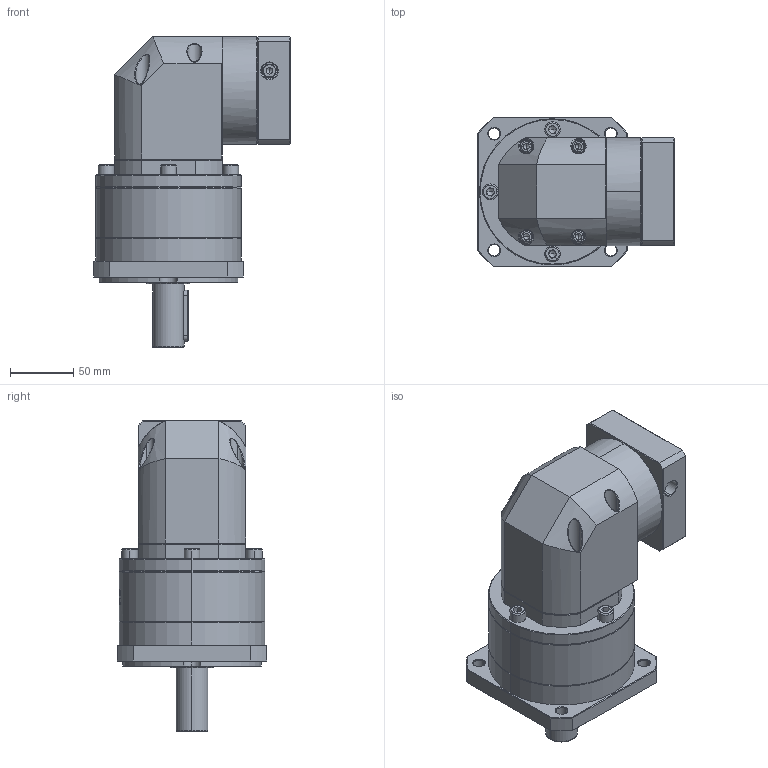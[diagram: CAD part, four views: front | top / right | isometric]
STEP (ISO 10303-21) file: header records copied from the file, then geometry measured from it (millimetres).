
FILE_DESCRIPTION (( 'STEP AP214' ), '1' );
FILE_NAME ('ZFR120A-D25-L2-P2-19-80-100-M6.step', '2023-08-27T09:16:33', ( '' ), ( '' ), 'SwSTEP 2.0', 'SolidWorks 2016', '' );
FILE_SCHEMA (( 'AUTOMOTIVE_DESIGN' ));
Length unit declared in the file: millimetre
Products named in the file (1): ZFR120A-D25-L2-P2-19-80-100-M6
Bounding box: 155.1 x 118 x 245 mm (x, y, z)
Volume: 1856900.4 mm3; surface area: 171721.4 mm2
Topology: 6 solids, 6 shells, 2399 faces, 6270 edges, 3979 vertices
Faces by surface type: plane 1153, cylinder 455, bspline 443, cone 334, torus 14
Entity records: 129915 total; most frequent: CARTESIAN_POINT 50284, ORIENTED_EDGE 12448, DIRECTION 9188, EDGE_CURVE 6224, VERTEX_POINT 3979, VECTOR 3334, LINE 3334, AXIS2_PLACEMENT_3D 2927
